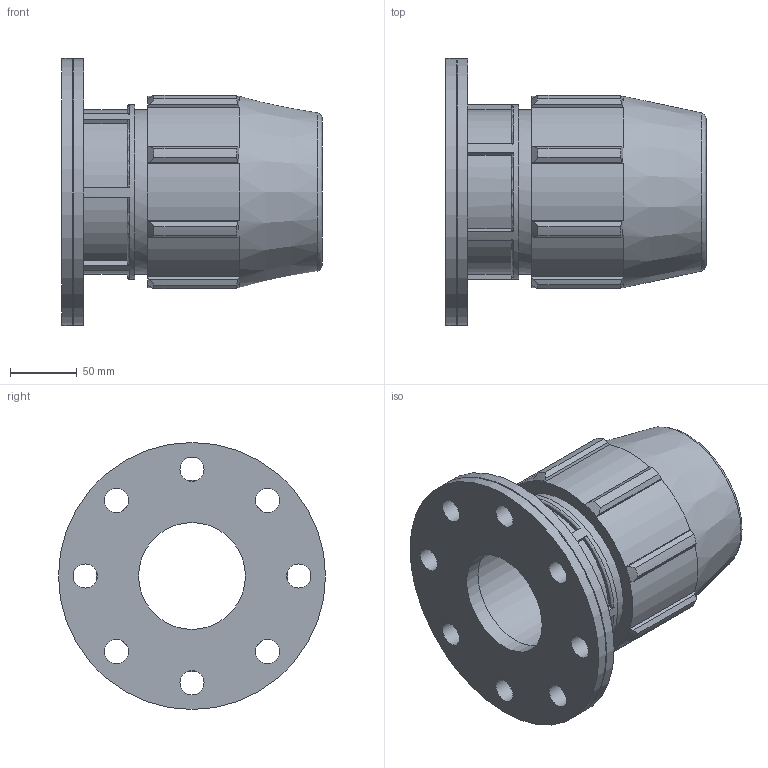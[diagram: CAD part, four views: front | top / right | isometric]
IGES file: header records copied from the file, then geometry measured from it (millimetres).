
Global section: file name: 0722060900300A.ipt; native system: Autodesk Inventor 2015; preprocessor: unknown; author: KIM; date: 20170608.042626; units: millimetre
Bounding box: 195 x 200 x 200 mm (x, y, z)
Volume: 1760215.3 mm3; surface area: 217224.4 mm2
Topology: 1 solids, 1 shells, 126 faces, 359 edges, 241 vertices
Faces by surface type: plane 58, cylinder 26, revolution 22, cone 20
Full cylindrical faces by diameter (mm): 123.2 x1, 130.9 x1, 200 x2
